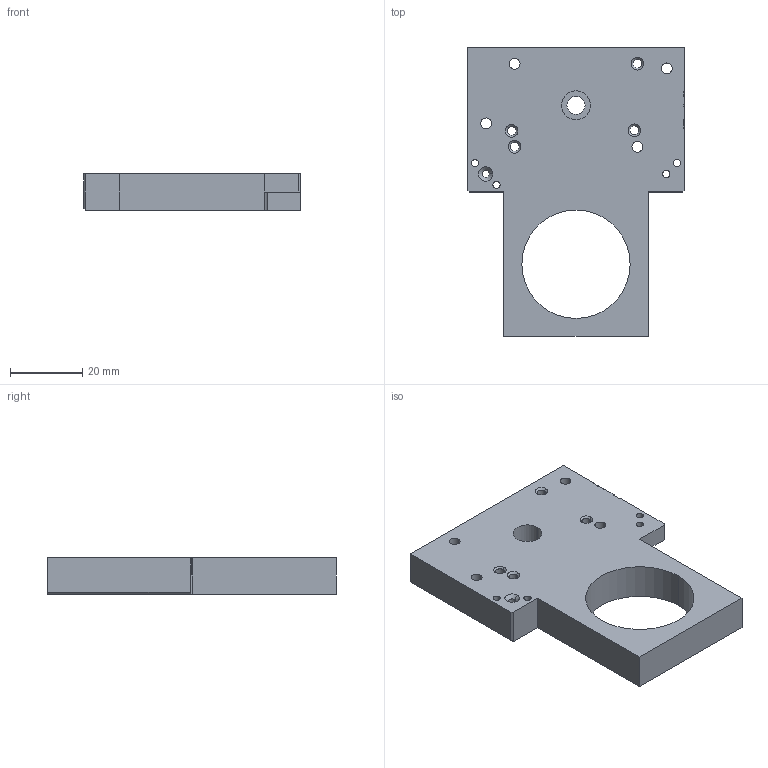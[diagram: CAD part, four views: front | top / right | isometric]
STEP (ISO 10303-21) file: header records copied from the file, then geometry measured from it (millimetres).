
FILE_DESCRIPTION (( 'STEP AP214' ), '1' );
FILE_NAME ('C1_2_N.STEP', '2016-02-27T11:16:40', ( '' ), ( '' ), 'SwSTEP 2.0', 'SolidWorks 2012', '' );
FILE_SCHEMA (( 'AUTOMOTIVE_DESIGN' ));
Length unit declared in the file: millimetre
Products named in the file (1): C1_2_N
Bounding box: 60 x 80 x 10 mm (x, y, z)
Volume: 31293.5 mm3; surface area: 11543.1 mm2
Topology: 1 solids, 1 shells, 109 faces, 288 edges, 187 vertices
Faces by surface type: cylinder 44, plane 36, bspline 15, cone 14
Entity records: 4344 total; most frequent: CARTESIAN_POINT 1556, ORIENTED_EDGE 576, DIRECTION 550, EDGE_CURVE 288, AXIS2_PLACEMENT_3D 197, VERTEX_POINT 187, VECTOR 156, LINE 156
